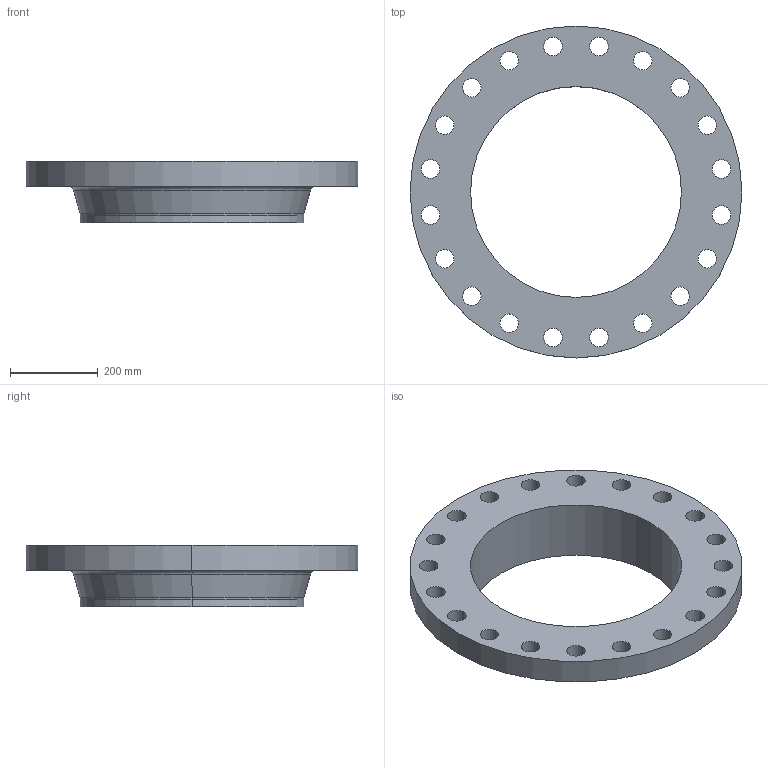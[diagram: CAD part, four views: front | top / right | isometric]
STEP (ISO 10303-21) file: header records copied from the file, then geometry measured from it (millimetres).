
FILE_DESCRIPTION (( 'STEP AP214' ), '1' );
FILE_NAME ('PN40 DN500 Type 11 - Type A Face.STEP', '2018-12-29T04:31:11', ( '' ), ( '' ), 'SwSTEP 2.0', 'SolidWorks 2019', '' );
FILE_SCHEMA (( 'AUTOMOTIVE_DESIGN' ));
Length unit declared in the file: millimetre
Products named in the file (1): PN40 DN500 Type 11 - Type A Face
Bounding box: 755 x 755 x 140 mm (x, y, z)
Volume: 16440236.3 mm3; surface area: 1081280 mm2
Topology: 1 solids, 1 shells, 55 faces, 150 edges, 98 vertices
Faces by surface type: cylinder 46, torus 4, plane 3, cone 2
Entity records: 1916 total; most frequent: DIRECTION 364, CARTESIAN_POINT 304, ORIENTED_EDGE 300, AXIS2_PLACEMENT_3D 158, EDGE_CURVE 150, CIRCLE 102, EDGE_LOOP 98, VERTEX_POINT 98
